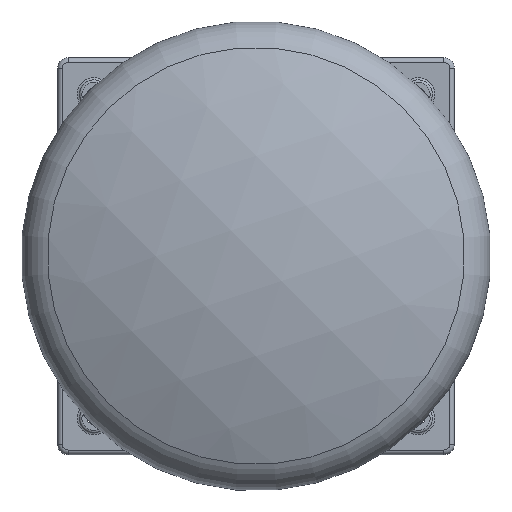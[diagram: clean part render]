
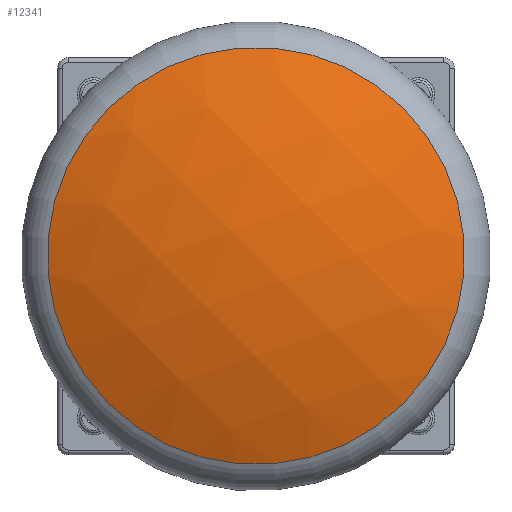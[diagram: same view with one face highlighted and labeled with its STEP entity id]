
A CAD part, top view. The second image highlights one B-rep face of the part: STEP entity #12341.
In plain terms, the highlighted spherical face has radius 400 mm.
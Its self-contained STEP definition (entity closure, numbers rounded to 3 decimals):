
#14=SPHERICAL_SURFACE('',#12922,400.);
#295=CIRCLE('',#12921,157.638);
#1611=FACE_OUTER_BOUND('',#2364,.T.);
#2364=EDGE_LOOP('',(#10178));
#5463=VERTEX_POINT('',#27065);
#7078=EDGE_CURVE('',#5463,#5463,#295,.T.);
#10178=ORIENTED_EDGE('',*,*,#7078,.T.);
#12341=ADVANCED_FACE('',(#1611),#14,.T.);
#12921=AXIS2_PLACEMENT_3D('',#27066,#14417,#14418);
#12922=AXIS2_PLACEMENT_3D('',#27067,#14419,#14420);
#14417=DIRECTION('center_axis',(0.,0.,
1.));
#14418=DIRECTION('ref_axis',(-0.707,0.707,0.));
#14419=DIRECTION('center_axis',(-0.707,-0.707,0.));
#14420=DIRECTION('ref_axis',(0.707,-0.707,0.));
#27065=CARTESIAN_POINT('',(-111.467,111.467,144.128));
#27066=CARTESIAN_POINT('Origin',(0.,0.,
144.128));
#27067=CARTESIAN_POINT('Origin',(0.,0.,
-223.5));
